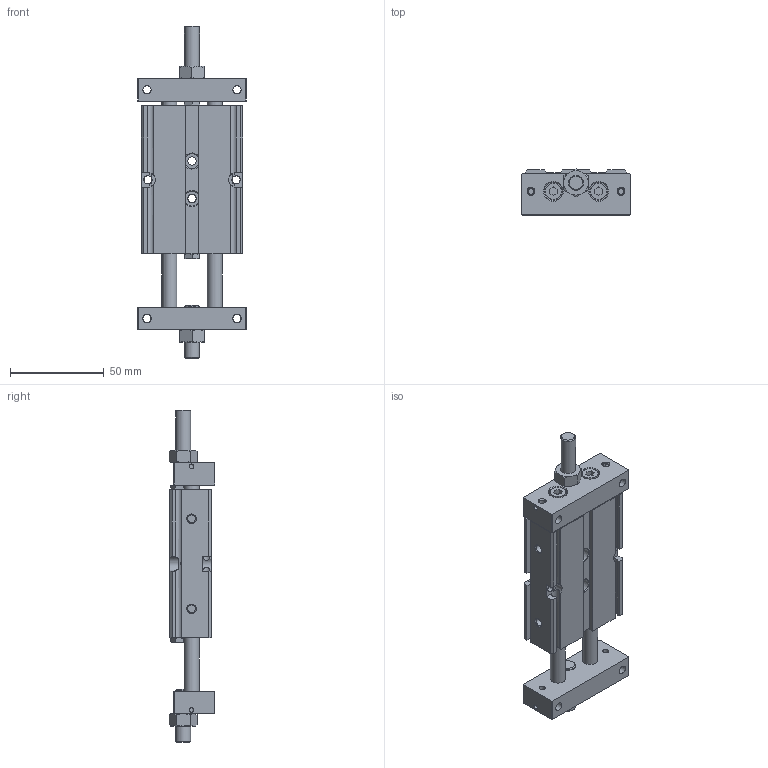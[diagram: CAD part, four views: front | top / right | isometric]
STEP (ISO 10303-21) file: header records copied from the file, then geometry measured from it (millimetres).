
FILE_DESCRIPTION((''),'2;1');
FILE_NAME('I:\3D電子目錄\氣缸\STU\STU\STU16\STU16x25.stp','2007-10-01T08:46:16',('Administrator'),(''),'Autodesk Inventor 11','Autodesk Inventor 11','');
FILE_SCHEMA(('AUTOMOTIVE_DESIGN { 1 0 10303 214 1 1 1 1 }'));
Length unit declared in the file: millimetre
Products named in the file (1): STU16
Bounding box: 58 x 24.51 x 177 mm (x, y, z)
Volume: 112824.4 mm3; surface area: 35219.8 mm2
Topology: 1 solids, 1 shells, 317 faces, 773 edges, 491 vertices
Faces by surface type: plane 162, cone 71, bspline 49, cylinder 35
Full cylindrical faces by diameter (mm): 2.459 x2, 8 x7, 8.5 x4, 9.5 x4, 18 x2, 19.2 x2
Entity records: 10045 total; most frequent: CARTESIAN_POINT 3283, ORIENTED_EDGE 1350, DIRECTION 1292, EDGE_CURVE 675, VERTEX_POINT 475, AXIS2_PLACEMENT_3D 474, EDGE_LOOP 474, VECTOR 344
